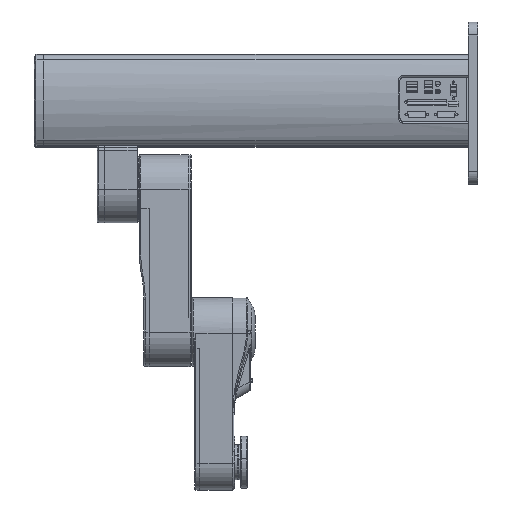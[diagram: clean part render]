
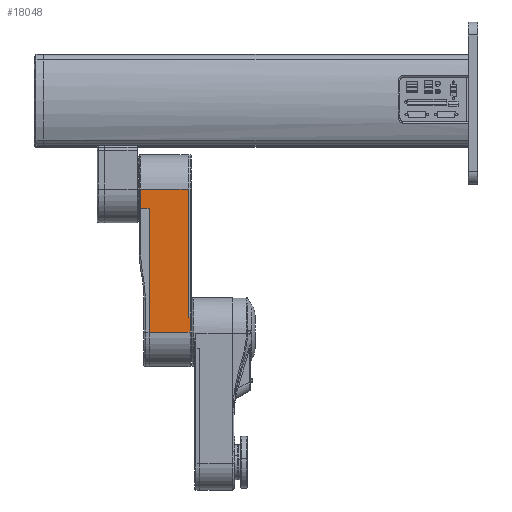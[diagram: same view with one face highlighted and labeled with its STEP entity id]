
A CAD part, left-side view. The second image highlights one B-rep face of the part: STEP entity #18048.
In plain terms, the highlighted planar face has unit normal (-1, 0, 0) as drawn and (0, 1, 0) by its records, which use the part's own axes.
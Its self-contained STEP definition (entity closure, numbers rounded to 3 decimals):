
#3037 = CARTESIAN_POINT ( 'NONE',  ( -152.914, 45.555, 475.5 ) ) ;
#3354 = LINE ( 'NONE', #31635, #56072 ) ;
#3596 = LINE ( 'NONE', #11496, #41247 ) ;
#4961 = ORIENTED_EDGE ( 'NONE', *, *, #63559, .T. ) ;
#6096 = PLANE ( 'NONE',  #19396 ) ;
#7339 = EDGE_CURVE ( 'NONE', #11381, #67874, #28952, .T. ) ;
#11381 = VERTEX_POINT ( 'NONE', #87388 ) ;
#11496 = CARTESIAN_POINT ( 'NONE',  ( 14.086, 45.555, 397.5 ) ) ;
#11561 = LINE ( 'NONE', #40203, #16040 ) ;
#11744 = CARTESIAN_POINT ( 'NONE',  ( -152.914, 45.555, 473.5 ) ) ;
#12760 = VECTOR ( 'NONE', #75281, 1000. ) ;
#12900 = EDGE_CURVE ( 'NONE', #66852, #72900, #3354, .T. ) ;
#14551 = CARTESIAN_POINT ( 'NONE',  ( -152.914, 45.555, 473.5 ) ) ;
#16040 = VECTOR ( 'NONE', #31938, 1000. ) ;
#18048 = ADVANCED_FACE ( 'NONE', ( #27860 ), #6096, .F. ) ;
#19396 = AXIS2_PLACEMENT_3D ( 'NONE', #22670, #23152, #80302 ) ;
#21868 = CARTESIAN_POINT ( 'NONE',  ( -182.914, 45.555, 400.5 ) ) ;
#22670 = CARTESIAN_POINT ( 'NONE',  ( -182.914, 45.555, 475.5 ) ) ;
#23152 = DIRECTION ( 'NONE',  ( 0., -1., 0. ) ) ;
#24841 = LINE ( 'NONE', #3037, #75411 ) ;
#26101 = LINE ( 'NONE', #11744, #90137 ) ;
#27860 = FACE_OUTER_BOUND ( 'NONE', #51370, .T. ) ;
#27914 = EDGE_CURVE ( 'NONE', #45701, #72900, #24841, .T. ) ;
#28952 = LINE ( 'NONE', #50166, #90122 ) ;
#30642 = ORIENTED_EDGE ( 'NONE', *, *, #27914, .T. ) ;
#31402 = ORIENTED_EDGE ( 'NONE', *, *, #78481, .T. ) ;
#31635 = CARTESIAN_POINT ( 'NONE',  ( -182.914, 45.555, 460.5 ) ) ;
#31938 = DIRECTION ( 'NONE',  ( 0., 0., -1. ) ) ;
#32935 = CARTESIAN_POINT ( 'NONE',  ( 14.086, 45.555, 395.5 ) ) ;
#33161 = ORIENTED_EDGE ( 'NONE', *, *, #7339, .F. ) ;
#36675 = DIRECTION ( 'NONE',  ( -1., 0., 0. ) ) ;
#37243 = DIRECTION ( 'NONE',  ( 0., 0., -1. ) ) ;
#40203 = CARTESIAN_POINT ( 'NONE',  ( 37.086, 45.555, 475.5 ) ) ;
#41023 = ORIENTED_EDGE ( 'NONE', *, *, #64798, .T. ) ;
#41247 = VECTOR ( 'NONE', #59952, 1000. ) ;
#43184 = LINE ( 'NONE', #21868, #44679 ) ;
#44679 = VECTOR ( 'NONE', #36675, 1000. ) ;
#45701 = VERTEX_POINT ( 'NONE', #14551 ) ;
#50166 = CARTESIAN_POINT ( 'NONE',  ( -182.914, 45.555, 475.5 ) ) ;
#51370 = EDGE_LOOP ( 'NONE', ( #41023, #65002, #64276, #4961, #33161, #31402, #30642, #63425 ) ) ;
#53290 = DIRECTION ( 'NONE',  ( -1., 0., 0. ) ) ;
#53331 = CARTESIAN_POINT ( 'NONE',  ( 14.086, 45.555, 400.5 ) ) ;
#53771 = DIRECTION ( 'NONE',  ( 1., 0., 0. ) ) ;
#53802 = EDGE_CURVE ( 'NONE', #59181, #79640, #3596, .T. ) ;
#54771 = CARTESIAN_POINT ( 'NONE',  ( 37.086, 45.555, 460.5 ) ) ;
#56072 = VECTOR ( 'NONE', #53290, 1000. ) ;
#59181 = VERTEX_POINT ( 'NONE', #74651 ) ;
#59952 = DIRECTION ( 'NONE',  ( -1., 0., 0. ) ) ;
#62175 = CARTESIAN_POINT ( 'NONE',  ( -182.914, 45.555, 400.5 ) ) ;
#63425 = ORIENTED_EDGE ( 'NONE', *, *, #12900, .F. ) ;
#63559 = EDGE_CURVE ( 'NONE', #64249, #67874, #43184, .T. ) ;
#64249 = VERTEX_POINT ( 'NONE', #53331 ) ;
#64276 = ORIENTED_EDGE ( 'NONE', *, *, #82061, .T. ) ;
#64798 = EDGE_CURVE ( 'NONE', #66852, #59181, #11561, .T. ) ;
#65002 = ORIENTED_EDGE ( 'NONE', *, *, #53802, .T. ) ;
#66309 = DIRECTION ( 'NONE',  ( 0., 0., -1. ) ) ;
#66852 = VERTEX_POINT ( 'NONE', #54771 ) ;
#67874 = VERTEX_POINT ( 'NONE', #62175 ) ;
#72900 = VERTEX_POINT ( 'NONE', #88323 ) ;
#74651 = CARTESIAN_POINT ( 'NONE',  ( 37.086, 45.555, 397.5 ) ) ;
#75281 = DIRECTION ( 'NONE',  ( 0., 0., 1. ) ) ;
#75411 = VECTOR ( 'NONE', #66309, 1000. ) ;
#78481 = EDGE_CURVE ( 'NONE', #11381, #45701, #26101, .T. ) ;
#79640 = VERTEX_POINT ( 'NONE', #80895 ) ;
#80302 = DIRECTION ( 'NONE',  ( 1., 0., 0. ) ) ;
#80895 = CARTESIAN_POINT ( 'NONE',  ( 14.086, 45.555, 397.5 ) ) ;
#82061 = EDGE_CURVE ( 'NONE', #79640, #64249, #88240, .T. ) ;
#87388 = CARTESIAN_POINT ( 'NONE',  ( -182.914, 45.555, 473.5 ) ) ;
#88240 = LINE ( 'NONE', #32935, #12760 ) ;
#88323 = CARTESIAN_POINT ( 'NONE',  ( -152.914, 45.555, 460.5 ) ) ;
#90122 = VECTOR ( 'NONE', #37243, 1000. ) ;
#90137 = VECTOR ( 'NONE', #53771, 1000. ) ;
